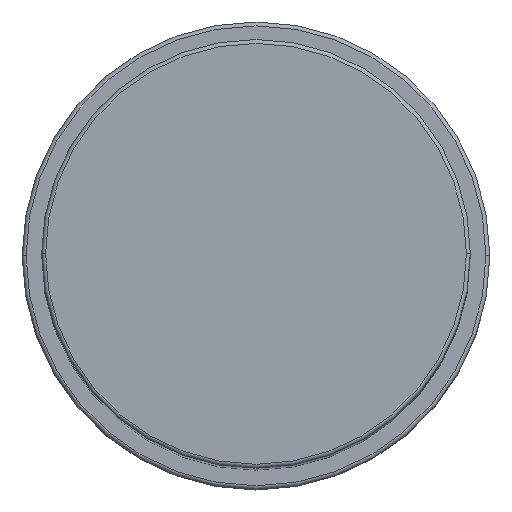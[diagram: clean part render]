
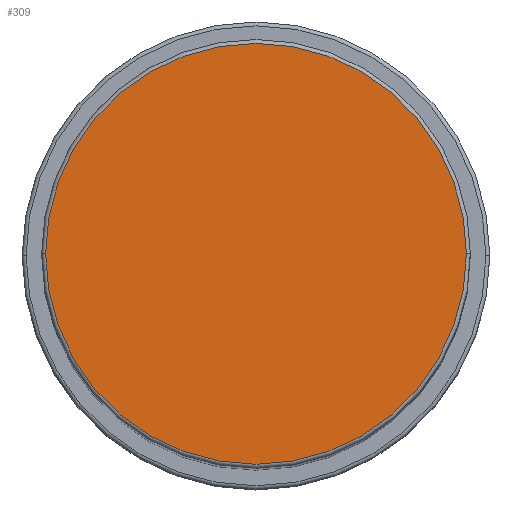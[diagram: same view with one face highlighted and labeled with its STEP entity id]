
A CAD part, top view. The second image highlights one B-rep face of the part: STEP entity #309.
In plain terms, the highlighted planar face has unit normal (0, 0, 1).
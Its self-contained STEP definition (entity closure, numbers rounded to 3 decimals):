
#72 = DIRECTION ( 'NONE',  ( 0., 0., 1. ) ) ;
#89 = ORIENTED_EDGE ( 'NONE', *, *, #499, .T. ) ;
#119 = CARTESIAN_POINT ( 'NONE',  ( 27., 0., 158. ) ) ;
#146 = CARTESIAN_POINT ( 'NONE',  ( 0., 0., 158. ) ) ;
#274 = DIRECTION ( 'NONE',  ( 1., 0., 0. ) ) ;
#309 = ADVANCED_FACE ( 'NONE', ( #625 ), #1000, .T. ) ;
#459 = DIRECTION ( 'NONE',  ( 1., 0., 0. ) ) ;
#482 = CARTESIAN_POINT ( 'NONE',  ( 0., 0., 158. ) ) ;
#499 = EDGE_CURVE ( 'NONE', #1044, #1132, #1257, .T. ) ;
#554 = EDGE_LOOP ( 'NONE', ( #89, #1092 ) ) ;
#625 = FACE_OUTER_BOUND ( 'NONE', #554, .T. ) ;
#767 = EDGE_CURVE ( 'NONE', #1132, #1044, #1106, .T. ) ;
#804 = DIRECTION ( 'NONE',  ( 0., 0., 1. ) ) ;
#823 = AXIS2_PLACEMENT_3D ( 'NONE', #146, #804, #274 ) ;
#995 = DIRECTION ( 'NONE',  ( 1., 0., 0. ) ) ;
#1000 = PLANE ( 'NONE',  #1360 ) ;
#1044 = VERTEX_POINT ( 'NONE', #119 ) ;
#1092 = ORIENTED_EDGE ( 'NONE', *, *, #767, .T. ) ;
#1093 = CARTESIAN_POINT ( 'NONE',  ( 0., 0., 158. ) ) ;
#1106 = CIRCLE ( 'NONE', #1581, 27. ) ;
#1132 = VERTEX_POINT ( 'NONE', #1534 ) ;
#1218 = DIRECTION ( 'NONE',  ( 0., 0., 1. ) ) ;
#1257 = CIRCLE ( 'NONE', #823, 27. ) ;
#1360 = AXIS2_PLACEMENT_3D ( 'NONE', #482, #72, #995 ) ;
#1534 = CARTESIAN_POINT ( 'NONE',  ( -27., 0., 158. ) ) ;
#1581 = AXIS2_PLACEMENT_3D ( 'NONE', #1093, #1218, #459 ) ;
